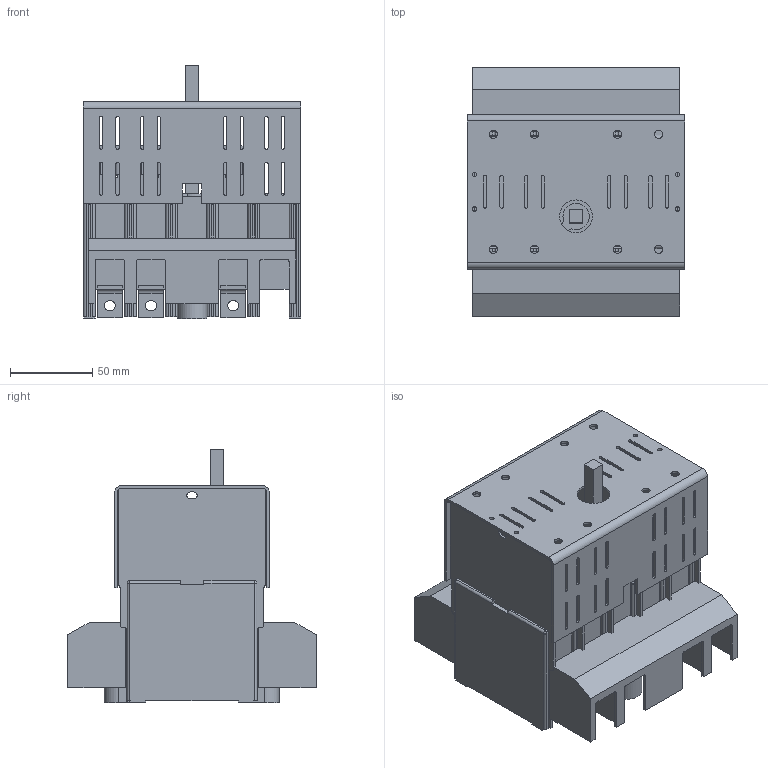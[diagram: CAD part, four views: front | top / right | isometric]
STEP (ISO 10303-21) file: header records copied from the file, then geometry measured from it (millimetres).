
FILE_DESCRIPTION(/* description */ (''),/* implementation_level */ '2;1');
FILE_NAME(/* name */ 'RAB 000 P3 A z oslona zaciskow.stp',/* time_stamp */ '2021-08-19T09:37:00+02:00',/* author */ (''),/* organization */ (''),/* preprocessor_version */ 'ST-DEVELOPER v18.1',/* originating_system */ 'SIEMENS PLM Software NX 1965',/* authorisation */ '');
FILE_SCHEMA (('AUTOMOTIVE_DESIGN { 1 0 10303 214 3 1 1 1 }'));
Length unit declared in the file: millimetre
Products named in the file (1): RAB 000 P3 A z oslona zaciskow_stp
Bounding box: 132.5 x 151.03 x 154 mm (x, y, z)
Volume: 774440.5 mm3; surface area: 257423 mm2
Topology: 1 solids, 1 shells, 1152 faces, 3350 edges, 2163 vertices
Faces by surface type: plane 766, cylinder 362, sphere 23, bspline 1
Full cylindrical faces by diameter (mm): 2.7 x4, 5 x8, 5.8 x2, 6.5 x6, 10 x2, 11.5 x2, 20 x1
Entity records: 37751 total; most frequent: CARTESIAN_POINT 6889, ORIENTED_EDGE 6574, DIRECTION 6221, EDGE_CURVE 3287, LINE 2495, VECTOR 2495, VERTEX_POINT 2149, AXIS2_PLACEMENT_3D 1863
